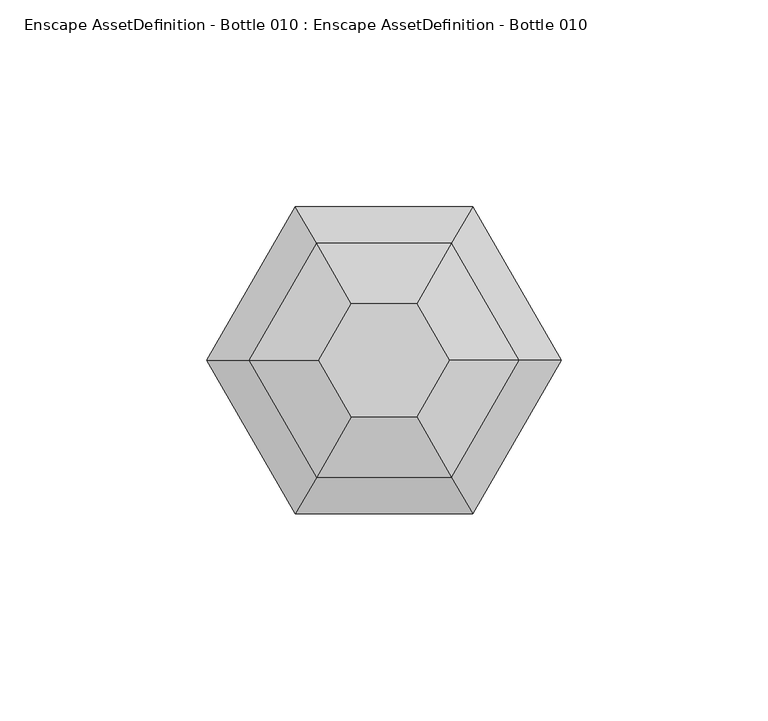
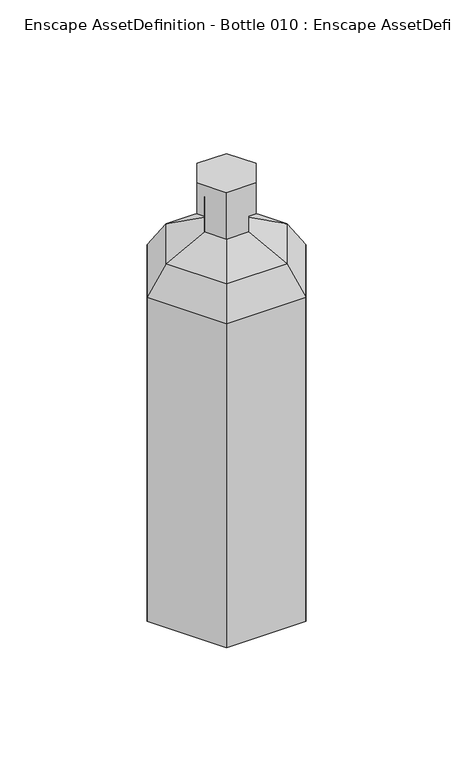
"""IFC4 building model written with IfcOpenShell, lengths in millimetres: geographic element geometry, Enscape AssetDefinition - Bottle 010 : Enscape AssetDefinition - Bottle 010."""

from ifc_helpers import new_model, si_unit, origin, place, context, project, spatial, triangles, source, transform, mapped, element, save


def enscape_assetdefinition_bottle_010_enscape_assetdefinition_ed5744ff(model_context):
    return source(origin(), model_context, "Body", "Tessellation", [
        triangles([(21.4539389, 37.1369002, 184.2833191), (42.8960099, -0.0016186, 0.0), (21.4539389, -37.1396026, 0.0), (-21.4296603, 37.1369002, 0.0), (21.4539389, 37.1369002, 0.0), (42.8960099, -0.0016186, 184.2833191), (16.3379699, 28.2748707, 199.8335509), (-21.4296603, -37.1396026, 0.0), (21.4539389, -37.1396026, 184.2833191), (32.6629954, -0.0016186, 199.8335509), (5.9695291, 10.3171846, 210.7614995), (16.3379699, -28.2775708, 199.8335509), (-21.4296603, -37.1396026, 184.2833191), (-42.8711886, -0.0016186, 0.0), (-42.8711886, -0.0016186, 184.2833191), (-32.6387145, -0.0016186, 199.8335509), (5.9695291, -10.3198824, 210.7614995), (-16.3131519, -28.2775708, 199.8335509), (-16.3131519, 28.2748707, 199.8335509), (-11.9023701, -0.0016186, 210.7614995), (-21.4296603, 37.1369002, 184.2833191), (-5.9452494, 10.3171846, 210.7614995), (-5.9452494, -10.3198824, 210.7614995), (-11.9023701, -0.0016186, 222.3563222), (-5.9452494, 10.3171846, 222.3563222), (-15.7876355, -0.0016186, 222.3563222), (-7.887613, -13.6844868, 222.3563222), (-15.7876355, -0.0016186, 239.9611706), (-7.887613, 13.68179, 222.3563222), (-7.887613, -13.6844868, 239.9611706), (-7.887613, 13.68179, 239.9611706), (7.9124321, 13.68179, 239.9611706), (7.9124321, 13.68179, 222.3563222), (15.8124546, -0.0016186, 222.3563222), (15.8124546, -0.0016186, 239.9611706), (7.9124321, -13.6844868, 222.3563222), (5.9695291, -10.3198824, 222.3563222), (11.9266487, -0.0016186, 222.3563222), (7.9124321, -13.6844868, 239.9611706), (11.9266487, -0.0016186, 210.7614995), (-5.9452494, -10.3198824, 222.3563222), (5.9695291, 10.3171846, 222.3563222)], [[23, 17, 41], [11, 42, 38], [40, 11, 38], [40, 38, 37], [17, 37, 41], [17, 40, 37], [41, 37, 36], [41, 36, 27], [36, 39, 27], [35, 39, 36], [37, 38, 34], [37, 34, 36], [34, 35, 36], [38, 42, 33], [38, 33, 34], [31, 32, 33], [32, 35, 34], [32, 39, 35], [33, 32, 34], [39, 30, 27], [32, 30, 39], [32, 31, 28], [32, 28, 30], [28, 31, 29], [42, 29, 33], [29, 31, 33], [30, 28, 26], [27, 30, 26], [26, 28, 29], [24, 41, 27], [23, 41, 24], [24, 27, 26], [25, 24, 26], [42, 25, 29], [25, 26, 29], [22, 25, 42], [11, 22, 42], [7, 22, 11], [20, 24, 25], [20, 23, 24], [22, 20, 25], [7, 19, 22], [19, 20, 22], [1, 19, 7], [1, 21, 19], [5, 4, 21], [5, 21, 1], [19, 16, 20], [16, 23, 20], [21, 16, 19], [16, 18, 23], [18, 17, 23], [21, 15, 16], [15, 18, 16], [4, 15, 21], [4, 14, 15], [8, 14, 4], [15, 13, 18], [14, 8, 13], [14, 13, 15], [18, 12, 17], [12, 40, 17], [13, 12, 18], [12, 10, 40], [10, 7, 11], [10, 11, 40], [13, 9, 12], [9, 10, 12], [8, 9, 13], [8, 3, 9], [3, 8, 4], [9, 6, 10], [6, 1, 7], [6, 7, 10], [3, 6, 9], [3, 2, 6], [2, 5, 1], [2, 3, 4], [5, 2, 4], [2, 1, 6]]),
    ])


if __name__ == "__main__":
    model = new_model("IFC4")
    model_context = context("Model", 3, world=origin())
    ifc_project = project(units=[si_unit("LENGTHUNIT", "METRE", prefix="MILLI")], contexts=[model_context])
    site = spatial("IfcSite", under=ifc_project)
    building = spatial("IfcBuilding", under=site)
    placement = place(None, origin())
    enscape_assetdefinition_bottle_010_enscape_assetdefinition_shape = enscape_assetdefinition_bottle_010_enscape_assetdefinition_ed5744ff(model_context)
    element("IfcGeographicElement", 1, ObjectType="Enscape AssetDefinition - Bottle 010 : Enscape AssetDefinition - Bottle 010", at=placement, inside=building, context=model_context, shape_type="MappedRepresentation", body=[
        mapped(enscape_assetdefinition_bottle_010_enscape_assetdefinition_shape, transform((0.0, 0.0, 0.0), x_axis=(1.0, 0.0, 0.0), y_axis=(0.0, 1.0, 0.0), z_axis=(0.0, 0.0, 1.0))),
    ])
    save(model, "model.ifc")
